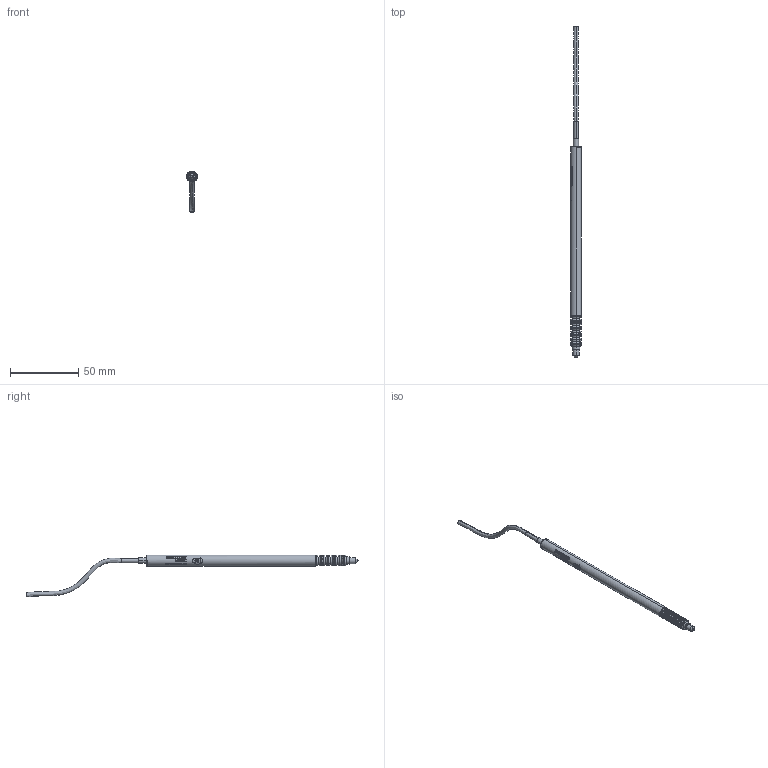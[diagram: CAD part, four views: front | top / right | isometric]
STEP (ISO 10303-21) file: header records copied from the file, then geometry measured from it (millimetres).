
FILE_DESCRIPTION((''),'2;1');
FILE_NAME('0000029134_SW0001','2012-10-10T',('11000205'),(''),'PRO/ENGINEER BY PARAMETRIC TECHNOLOGY CORPORATION, 2011180','PRO/ENGINEER BY PARAMETRIC TECHNOLOGY CORPORATION, 2011180','');
FILE_SCHEMA(('AUTOMOTIVE_DESIGN { 1 0 10303 214 1 1 1 1 }'));
Length unit declared in the file: millimetre
Products named in the file (1): 0000029134_SW0001
Bounding box: 8 x 243.73 x 30.59 mm (x, y, z)
Volume: 7904.8 mm3; surface area: 5287.7 mm2
Topology: 2 solids, 4 shells, 910 faces, 2459 edges, 1598 vertices
Faces by surface type: plane 716, cone 64, cylinder 62, torus 58, extrusion 6, sphere 2, bspline 2
Entity records: 37072 total; most frequent: CARTESIAN_POINT 8984, ORIENTED_EDGE 4910, DIRECTION 3650, EDGE_CURVE 2455, VERTEX_POINT 1598, AXIS2_PLACEMENT_3D 1296, VECTOR 1058, LINE 1052
